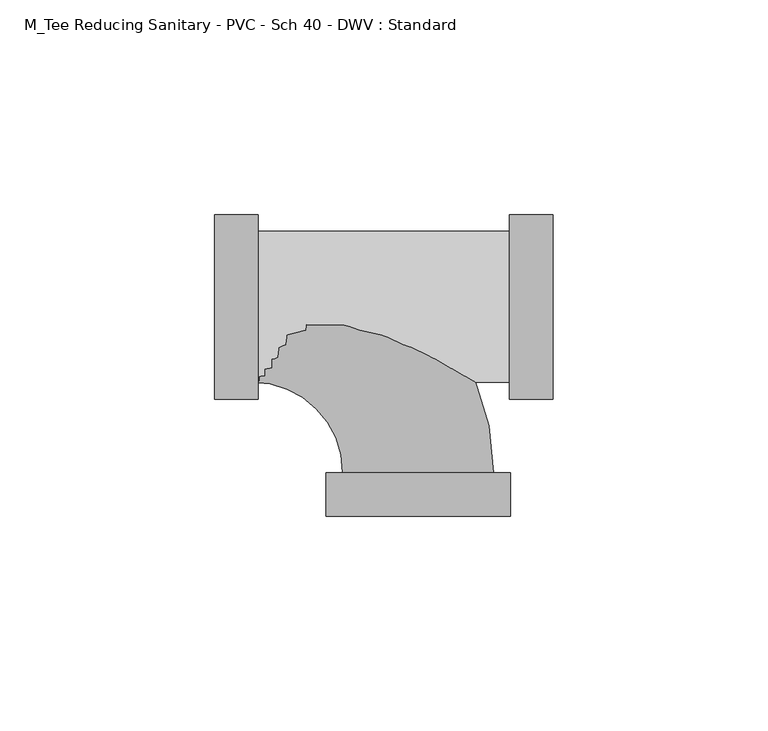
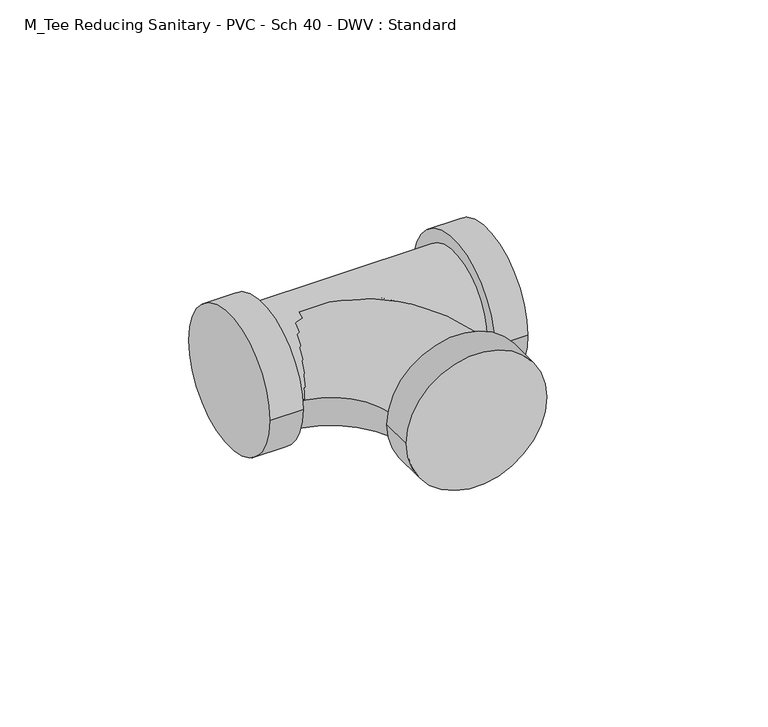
"""IFC4 building model written with IfcOpenShell, lengths in millimetres: pipe fitting geometry, M_Tee Reducing Sanitary - PVC - Sch 40 - DWV : Standard."""

from ifc_helpers import new_model, si_unit, point, frame, origin, place, context, project, spatial, circle_curve, ellipse_curve, trimmed, source, transform, mapped, element, save
from ifc_brep_helpers import plane_surface, cylinder_surface, revolved_surface, advanced_brep


def m_tee_reducing_sanitary_pvc_sch_40_dwv_standard_235fb988(model_context):
    return source(origin(), model_context, "Body", "AdvancedBrep", [
        advanced_brep(
        [(21.301625, -21.4871094, 0.0), (21.301625, 21.4871094, 0.0), (21.301625, -17.5640625, 0.0), (21.301625, 17.5640625, 0.0), (31.4719375, -21.4871094, 0.0), (31.4719375, 21.4871094, 0.0), (-37.2804062, 17.5640625, 0.0), (-37.2804062, -17.5640625, 0.0), (-47.4507187, -21.4871094, 0.0), (-47.4507187, 21.4871094, 0.0), (-37.2804062, -21.4871094, 0.0), (-37.2804062, 21.4871094, 0.0)],
        [
            (0, 1, circle_curve(frame((21.301625, 0.0, 0.0), z_axis=(-1.0, 0.0, 0.0), x_axis=(0.0, 1.0, 0.0)), 21.4871094)),
            (1, 0, circle_curve(frame((21.301625, 0.0, 0.0), z_axis=(-1.0, 0.0, 0.0), x_axis=(0.0, 1.0, 0.0)), 21.4871094)),
            (2, 3, circle_curve(frame((21.301625, 0.0, 0.0), z_axis=(1.0, 0.0, 0.0), x_axis=(0.0, 0.0, -1.0)), 17.5640625)),
            (3, 2, circle_curve(frame((21.301625, 0.0, 0.0), z_axis=(1.0, 0.0, 0.0), x_axis=(0.0, 0.0, 1.0)), 17.5640625)),
            (4, 5, circle_curve(frame((31.4719375, 0.0, 0.0), z_axis=(1.0, 0.0, 0.0), x_axis=(0.0, 1.0, 0.0)), 21.4871094)),
            (5, 4, circle_curve(frame((31.4719375, 0.0, 0.0), z_axis=(1.0, 0.0, 0.0), x_axis=(0.0, 1.0, 0.0)), 21.4871094)),
            (0, 4),
            (5, 1),
            (6, 3),
            (2, 7),
            (7, 6, circle_curve(frame((-37.2804062, 0.0, 0.0), z_axis=(1.0, 0.0, 0.0), x_axis=(0.0, 0.0, -1.0)), 17.5640625)),
            (6, 7, circle_curve(frame((-37.2804062, 0.0, 0.0), z_axis=(1.0, 0.0, 0.0), x_axis=(0.0, 0.0, 1.0)), 17.5640625)),
            (8, 9, circle_curve(frame((-47.4507187, 0.0, 0.0), z_axis=(-1.0, 0.0, 0.0), x_axis=(0.0, 1.0, 0.0)), 21.4871094)),
            (9, 8, circle_curve(frame((-47.4507187, 0.0, 0.0), z_axis=(-1.0, 0.0, 0.0), x_axis=(0.0, 1.0, 0.0)), 21.4871094)),
            (10, 11, circle_curve(frame((-37.2804062, 0.0, 0.0), z_axis=(1.0, 0.0, 0.0), x_axis=(0.0, 1.0, 0.0)), 21.4871094)),
            (11, 10, circle_curve(frame((-37.2804062, 0.0, 0.0), z_axis=(1.0, 0.0, 0.0), x_axis=(0.0, 1.0, 0.0)), 21.4871094)),
            (8, 10),
            (11, 9),
        ],
        [
            plane_surface(frame((21.301625, 0.0, 0.0), z_axis=(-1.0, 0.0, 0.0), x_axis=(0.0, 0.0, 1.0))),
            plane_surface(frame((31.4719375, 0.0, 0.0), z_axis=(1.0, 0.0, 0.0), x_axis=(0.0, 0.0, 1.0))),
            cylinder_surface(frame((21.301625, 0.0, 0.0), z_axis=(-1.0, 0.0, 0.0), x_axis=(0.0, 1.0, 0.0)), 21.4871094),
            cylinder_surface(frame((-37.2804062, 0.0, 0.0), z_axis=(1.0, 0.0, 0.0), x_axis=(0.0, 0.0, -1.0)), 17.5640625),
            cylinder_surface(frame((-37.2804062, 0.0, 0.0), z_axis=(1.0, 0.0, 0.0), x_axis=(0.0, 0.0, 1.0)), 17.5640625),
            plane_surface(frame((-47.4507187, 0.0, 0.0), z_axis=(-1.0, 0.0, 0.0), x_axis=(0.0, 0.0, 1.0))),
            plane_surface(frame((-37.2804062, 0.0, 0.0), z_axis=(1.0, 0.0, 0.0), x_axis=(0.0, 0.0, 1.0))),
            cylinder_surface(frame((-47.4507187, 0.0, 0.0), z_axis=(-1.0, 0.0, 0.0), x_axis=(0.0, 1.0, 0.0)), 21.4871094),
        ],
        [
            (0, [[1, 2], [3, 4]]),
            (1, [[5, 6]]),
            (2, [[-1, 7, -6, 8]]),
            (2, [[-2, -8, -5, -7]]),
            (3, [[9, -3, 10, 11]]),
            (4, [[-9, 12, -10, -4]]),
            (5, [[13, 14]]),
            (6, [[15, 16], [-11, -12]]),
            (7, [[-13, 17, -16, 18]]),
            (7, [[-14, -18, -15, -17]]),
        ],
    ),
        advanced_brep(
        [(-21.4871094, -38.5976563, 0.0), (21.4871094, -38.5976563, 0.0), (17.5640625, -38.5976563, 0.0), (-17.5640625, -38.5976563, 0.0), (-21.4871094, -48.7679688, 0.0), (21.4871094, -48.7679688, 0.0), (-38.5976562, -17.5640625, 0.0), (-38.5976562, 17.5640625, 0.0)],
        [
            (0, 1, circle_curve(frame((0.0, -38.5976563, 0.0), z_axis=(0.0, 1.0, 0.0), x_axis=(1.0, 0.0, 0.0)), 21.4871094)),
            (1, 0, circle_curve(frame((0.0, -38.5976563, 0.0), z_axis=(0.0, 1.0, 0.0), x_axis=(1.0, 0.0, 0.0)), 21.4871094)),
            (2, 3, circle_curve(frame((0.0, -38.5976563, 0.0), z_axis=(0.0, -1.0, 0.0), x_axis=(1.0, 0.0, 0.0)), 17.5640625)),
            (3, 2, circle_curve(frame((0.0, -38.5976563, 0.0), z_axis=(0.0, -1.0, 0.0), x_axis=(1.0, 0.0, 0.0)), 17.5640625)),
            (4, 5, circle_curve(frame((0.0, -48.7679688, 0.0), z_axis=(0.0, -1.0, 0.0), x_axis=(1.0, 0.0, 0.0)), 21.4871094)),
            (5, 4, circle_curve(frame((0.0, -48.7679688, 0.0), z_axis=(0.0, -1.0, 0.0), x_axis=(1.0, 0.0, 0.0)), 21.4871094)),
            (0, 4),
            (5, 1),
            (6, 7, circle_curve(frame((-38.5976562, 0.0, 0.0), z_axis=(-1.0, 0.0, 0.0), x_axis=(0.0, 1.0, 0.0)), 17.5640625)),
            (7, 6, circle_curve(frame((-38.5976562, 0.0, 0.0), z_axis=(-1.0, 0.0, 0.0), x_axis=(0.0, 1.0, 0.0)), 17.5640625)),
            (6, 3, circle_curve(frame((-38.5976562, -38.5976563, 0.0), z_axis=(0.0, 0.0, -1.0), x_axis=(0.0, 1.0, 0.0)), 21.0335938)),
            (2, 7, circle_curve(frame((-38.5976562, -38.5976563, 0.0), z_axis=(0.0, 0.0, 1.0), x_axis=(0.0, 1.0, 0.0)), 56.1617188)),
        ],
        [
            plane_surface(frame((0.0, -38.5976563, 0.0), z_axis=(0.0, 1.0, 0.0), x_axis=(0.0, 0.0, 1.0))),
            plane_surface(frame((0.0, -48.7679688, 0.0), z_axis=(0.0, -1.0, 0.0), x_axis=(0.0, 0.0, 1.0))),
            cylinder_surface(frame((0.0, -38.5976563, 0.0), z_axis=(0.0, 1.0, 0.0), x_axis=(1.0, 0.0, 0.0)), 21.4871094),
            plane_surface(frame((-38.5976562, 0.0, 0.0), z_axis=(-1.0, 0.0, 0.0), x_axis=(0.0, 0.0, 1.0))),
            revolved_surface(trimmed(ellipse_curve(frame((-38.5976562, 0.0, 0.0), z_axis=(-1.0, 0.0, 0.0), x_axis=(0.0, 1.0, 0.0)), 17.5640625, 17.5640625), [point((-38.5976562, -17.5640625, 0.0))], [point((-38.5976562, 17.5640625, 0.0))], True, "CARTESIAN"), (-38.5976562, -38.5976563, 0.0), (0.0, 0.0, -1.0)),
            revolved_surface(trimmed(ellipse_curve(frame((-38.5976562, 0.0, 0.0), z_axis=(-1.0, 0.0, 0.0), x_axis=(0.0, 1.0, 0.0)), 17.5640625, 17.5640625), [point((-38.5976562, 17.5640625, 0.0))], [point((-38.5976562, -17.5640625, 0.0))], True, "CARTESIAN"), (-38.5976562, -38.5976563, 0.0), (0.0, 0.0, -1.0)),
        ],
        [
            (0, [[1, 2], [3, 4]]),
            (1, [[5, 6]]),
            (2, [[-1, 7, -6, 8]]),
            (2, [[-2, -8, -5, -7]]),
            (3, [[9, 10]]),
            (4, [[-9, 11, -3, 12]]),
            (5, [[-10, -12, -4, -11]]),
        ],
    ),
    ])


if __name__ == "__main__":
    model = new_model("IFC4")
    model_context = context("Model", 3, world=origin())
    ifc_project = project(units=[si_unit("LENGTHUNIT", "METRE", prefix="MILLI")], contexts=[model_context])
    site = spatial("IfcSite", under=ifc_project)
    building = spatial("IfcBuilding", under=site)
    placement = place(None, origin())
    m_tee_reducing_sanitary_pvc_sch_40_dwv_standard_shape = m_tee_reducing_sanitary_pvc_sch_40_dwv_standard_235fb988(model_context)
    element("IfcPipeFitting", 1, ObjectType="M_Tee Reducing Sanitary - PVC - Sch 40 - DWV : Standard", at=placement, inside=building, context=model_context, shape_type="MappedRepresentation", body=[
        mapped(m_tee_reducing_sanitary_pvc_sch_40_dwv_standard_shape, transform((0.0, 0.0, 0.0), x_axis=(1.0, 0.0, 0.0), y_axis=(0.0, 1.0, 0.0), z_axis=(0.0, 0.0, 1.0))),
    ])
    save(model, "model.ifc")
